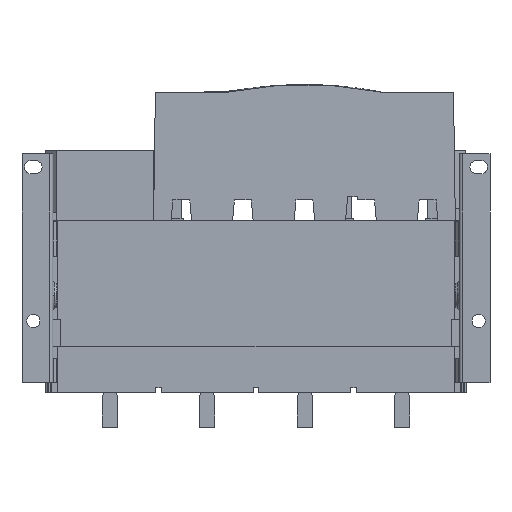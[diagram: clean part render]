
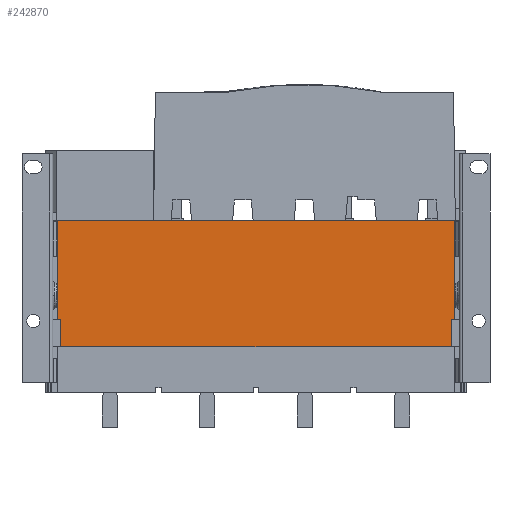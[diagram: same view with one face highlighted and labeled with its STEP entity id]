
A CAD part, front view. The second image highlights one B-rep face of the part: STEP entity #242870.
In plain terms, the highlighted planar face has unit normal (0, -1, 0).
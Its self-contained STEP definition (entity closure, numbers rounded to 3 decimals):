
#1158 = ORIENTED_EDGE ( 'NONE', *, *, #247981, .F. ) ;
#3394 = DIRECTION ( 'NONE',  ( 0., 0., 1. ) ) ;
#3965 = DIRECTION ( 'NONE',  ( -1., 0., 0. ) ) ;
#4272 = CARTESIAN_POINT ( 'NONE',  ( -122.495, 72.376, 367.563 ) ) ;
#6278 = FACE_OUTER_BOUND ( 'NONE', #123923, .T. ) ;
#8168 = PLANE ( 'NONE',  #196675 ) ;
#14678 = ORIENTED_EDGE ( 'NONE', *, *, #79357, .F. ) ;
#17285 = CARTESIAN_POINT ( 'NONE',  ( 260.505, 72.376, 354.063 ) ) ;
#17522 = VECTOR ( 'NONE', #3394, 1000. ) ;
#20950 = VERTEX_POINT ( 'NONE', #213112 ) ;
#23389 = CARTESIAN_POINT ( 'NONE',  ( 70.505, 72.376, 292.563 ) ) ;
#23715 = DIRECTION ( 'NONE',  ( 0., 0., -1. ) ) ;
#31336 = VERTEX_POINT ( 'NONE', #70127 ) ;
#36916 = LINE ( 'NONE', #4272, #209453 ) ;
#38292 = VERTEX_POINT ( 'NONE', #141236 ) ;
#44392 = LINE ( 'NONE', #134577, #244080 ) ;
#49684 = DIRECTION ( 'NONE',  ( -1., 0., 0. ) ) ;
#56714 = CARTESIAN_POINT ( 'NONE',  ( 263.505, 72.376, 415.563 ) ) ;
#65824 = VECTOR ( 'NONE', #113795, 1000. ) ;
#68668 = EDGE_CURVE ( 'NONE', #20950, #156490, #247065, .T. ) ;
#69092 = EDGE_CURVE ( 'NONE', #20950, #31336, #44392, .T. ) ;
#70127 = CARTESIAN_POINT ( 'NONE',  ( 263.505, 72.376, 319.563 ) ) ;
#79357 = EDGE_CURVE ( 'NONE', #38292, #100992, #180003, .T. ) ;
#81139 = CARTESIAN_POINT ( 'NONE',  ( -119.495, 72.376, 354.063 ) ) ;
#83321 = CARTESIAN_POINT ( 'NONE',  ( 70.505, 72.376, 319.563 ) ) ;
#88519 = DIRECTION ( 'NONE',  ( 1., 0., 0. ) ) ;
#100713 = CARTESIAN_POINT ( 'NONE',  ( -122.495, 72.376, 415.563 ) ) ;
#100992 = VERTEX_POINT ( 'NONE', #190453 ) ;
#104396 = ORIENTED_EDGE ( 'NONE', *, *, #68668, .T. ) ;
#109809 = LINE ( 'NONE', #83321, #218720 ) ;
#110340 = VECTOR ( 'NONE', #3965, 1000. ) ;
#113795 = DIRECTION ( 'NONE',  ( 0., 0., -1. ) ) ;
#120235 = CARTESIAN_POINT ( 'NONE',  ( 134.838, 72.376, 415.563 ) ) ;
#121449 = LINE ( 'NONE', #202885, #212089 ) ;
#123923 = EDGE_LOOP ( 'NONE', ( #227454, #248914, #104396, #142067, #184207, #157356, #14678, #1158 ) ) ;
#125467 = CARTESIAN_POINT ( 'NONE',  ( -122.495, 72.376, 319.563 ) ) ;
#127622 = DIRECTION ( 'NONE',  ( 0., 1., 0. ) ) ;
#134577 = CARTESIAN_POINT ( 'NONE',  ( 263.505, 72.376, 354.063 ) ) ;
#141236 = CARTESIAN_POINT ( 'NONE',  ( 260.505, 72.376, 292.563 ) ) ;
#142067 = ORIENTED_EDGE ( 'NONE', *, *, #250256, .T. ) ;
#156490 = VERTEX_POINT ( 'NONE', #204543 ) ;
#157356 = ORIENTED_EDGE ( 'NONE', *, *, #245404, .F. ) ;
#171651 = DIRECTION ( 'NONE',  ( 0., 0., -1. ) ) ;
#171983 = CARTESIAN_POINT ( 'NONE',  ( 260.505, 72.376, 319.563 ) ) ;
#175195 = CARTESIAN_POINT ( 'NONE',  ( 6.172, 72.376, 415.563 ) ) ;
#180003 = LINE ( 'NONE', #23389, #110340 ) ;
#184207 = ORIENTED_EDGE ( 'NONE', *, *, #229567, .F. ) ;
#186572 = VERTEX_POINT ( 'NONE', #171983 ) ;
#186740 = CARTESIAN_POINT ( 'NONE',  ( 70.505, 72.376, 354.063 ) ) ;
#190453 = CARTESIAN_POINT ( 'NONE',  ( -119.495, 72.376, 292.563 ) ) ;
#190478 = CARTESIAN_POINT ( 'NONE',  ( -119.495, 72.376, 319.563 ) ) ;
#196675 = AXIS2_PLACEMENT_3D ( 'NONE', #186740, #127622, #88519 ) ;
#196754 = VERTEX_POINT ( 'NONE', #190478 ) ;
#202885 = CARTESIAN_POINT ( 'NONE',  ( 70.505, 72.376, 319.563 ) ) ;
#204543 = CARTESIAN_POINT ( 'NONE',  ( -122.495, 72.376, 415.563 ) ) ;
#209453 = VECTOR ( 'NONE', #23715, 1000. ) ;
#212089 = VECTOR ( 'NONE', #49684, 1000. ) ;
#213112 = CARTESIAN_POINT ( 'NONE',  ( 263.505, 72.376, 415.563 ) ) ;
#218703 = DIRECTION ( 'NONE',  ( -1., 0., 0. ) ) ;
#218720 = VECTOR ( 'NONE', #218703, 1000. ) ;
#227454 = ORIENTED_EDGE ( 'NONE', *, *, #237199, .F. ) ;
#229567 = EDGE_CURVE ( 'NONE', #196754, #236527, #109809, .T. ) ;
#236527 = VERTEX_POINT ( 'NONE', #125467 ) ;
#237199 = EDGE_CURVE ( 'NONE', #31336, #186572, #121449, .T. ) ;
#242870 = ADVANCED_FACE ( 'NONE', ( #6278 ), #8168, .F. ) ;
#244080 = VECTOR ( 'NONE', #171651, 1000. ) ;
#244422 = LINE ( 'NONE', #17285, #65824 ) ;
#245404 = EDGE_CURVE ( 'NONE', #100992, #196754, #250462, .T. ) ;
#247065 = B_SPLINE_CURVE_WITH_KNOTS ( 'NONE', 3,
 ( #56714, #120235, #175195, #100713 ),
 .UNSPECIFIED., .F., .F.,
 ( 4, 4 ),
 ( 0., 1. ),
 .UNSPECIFIED. ) ;
#247981 = EDGE_CURVE ( 'NONE', #186572, #38292, #244422, .T. ) ;
#248914 = ORIENTED_EDGE ( 'NONE', *, *, #69092, .F. ) ;
#250256 = EDGE_CURVE ( 'NONE', #156490, #236527, #36916, .T. ) ;
#250462 = LINE ( 'NONE', #81139, #17522 ) ;
